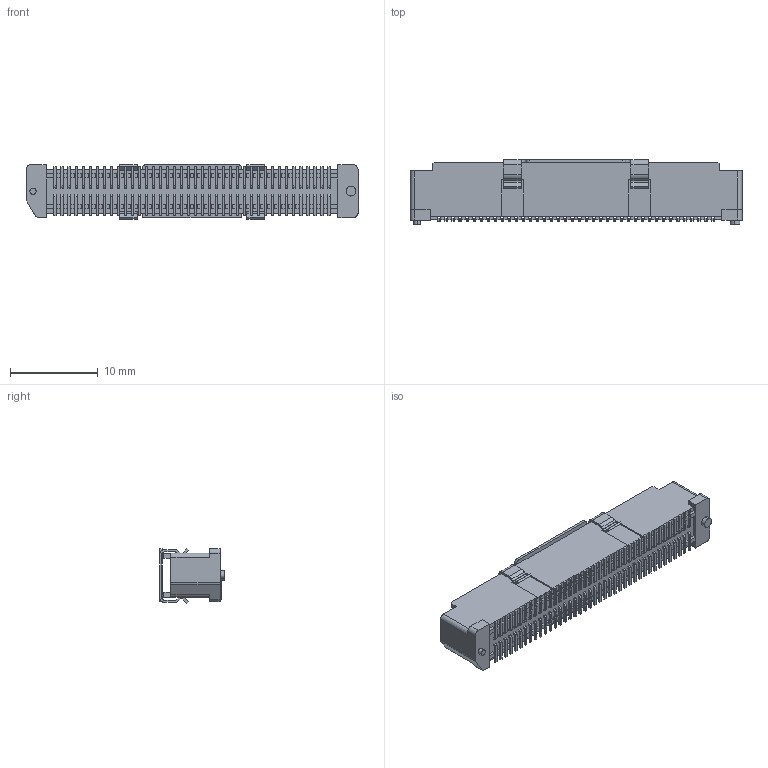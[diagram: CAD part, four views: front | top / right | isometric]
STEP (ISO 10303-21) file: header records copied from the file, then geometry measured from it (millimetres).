
FILE_DESCRIPTION (( 'STEP AP214' ), '1' );
FILE_NAME ('2381-80C00DP3T.STEP', '2017-02-21T04:16:21', ( 'RD05' ), ( '' ), 'SwSTEP 2.0', 'SolidWorks 2011', '' );
FILE_SCHEMA (( 'AUTOMOTIVE_DESIGN' ));
Length unit declared in the file: millimetre
Products named in the file (4): P-2381-80C00DP3T; MP-2381-80C00DP3T; H-2381-80C00DP3T; 2381-80C00DP3T
Assembly tree (82 placements, depth 2):
  2381-80C00DP3T
    P-2381-80C00DP3T  x80
    H-2381-80C00DP3T
    MP-2381-80C00DP3T
Bounding box: 37.8 x 7.4 x 6.19 mm (x, y, z)
Volume: 826.2 mm3; surface area: 2080.2 mm2
Topology: 162 solids, 162 shells, 3235 faces, 8294 edges, 5464 vertices
Faces by surface type: plane 2850, cylinder 377, cone 8
Entity records: 40120 total; most frequent: CARTESIAN_POINT 7124, ORIENTED_EDGE 6950, DIRECTION 6295, EDGE_CURVE 3475, VECTOR 3345, LINE 3345, VERTEX_POINT 2304, AXIS2_PLACEMENT_3D 1475
